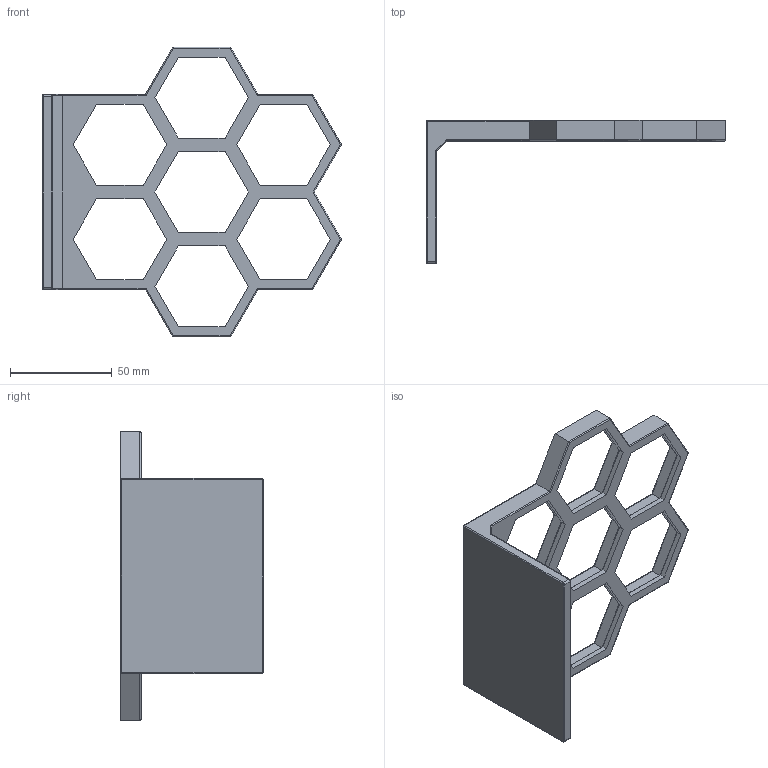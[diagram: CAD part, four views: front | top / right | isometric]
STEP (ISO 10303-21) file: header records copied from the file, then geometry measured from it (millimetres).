
FILE_DESCRIPTION((''),'2;1');
FILE_NAME('JIA-1-2','2024-05-20T17:33:44',('Administrator'),(''),'CREO PARAMETRIC BY PTC INC, 2021063','CREO PARAMETRIC BY PTC INC, 2021063','');
FILE_SCHEMA(('CONFIG_CONTROL_DESIGN'));
Length unit declared in the file: millimetre
Products named in the file (1): JIA-1-2
Bounding box: 146.66 x 70 x 141.9 mm (x, y, z)
Volume: 57759.5 mm3; surface area: 39073.8 mm2
Topology: 1 solids, 1 shells, 247 faces, 585 edges, 348 vertices
Faces by surface type: cylinder 120, plane 117, torus 7, sphere 2, bspline 1
Entity records: 7430 total; most frequent: CARTESIAN_POINT 1935, ORIENTED_EDGE 1170, DIRECTION 1007, EDGE_CURVE 585, VECTOR 439, LINE 439, VERTEX_POINT 348, AXIS2_PLACEMENT_3D 284
